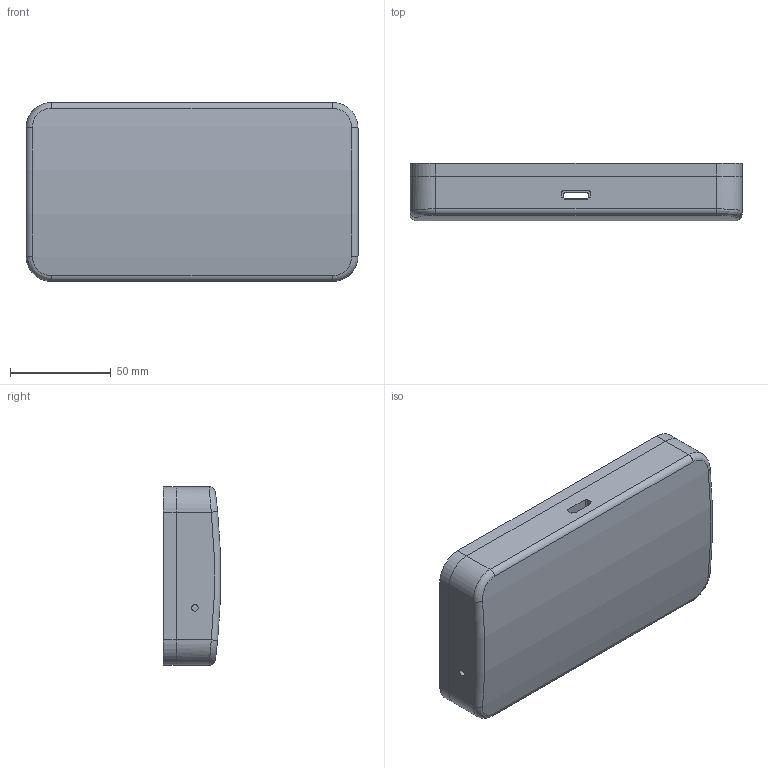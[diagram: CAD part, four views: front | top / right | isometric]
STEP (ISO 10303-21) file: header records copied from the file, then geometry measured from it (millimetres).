
FILE_DESCRIPTION (( 'STEP AP203' ), '1' );
FILE_NAME ('Phone MU Assembly.STEP', '2025-12-16T02:13:05', ( '' ), ( '' ), 'SwSTEP 2.0', 'SolidWorks 2024', '' );
FILE_SCHEMA (( 'CONFIG_CONTROL_DESIGN' ));
Length unit declared in the file: inch
Products named in the file (3): Phone MU Front; Phone MU; Phone MU Assembly
Assembly tree (2 placements, depth 2):
  Phone MU Assembly
    Phone MU
    Phone MU Front
Bounding box: 165.1 x 28.39 x 88.9 mm (x, y, z)
Volume: 174308.2 mm3; surface area: 101985.6 mm2
Topology: 2 solids, 74 shells, 533 faces, 1105 edges, 722 vertices
Faces by surface type: plane 406, cylinder 101, torus 22, bspline 4
Entity records: 14639 total; most frequent: CARTESIAN_POINT 2863, DIRECTION 2400, ORIENTED_EDGE 2210, EDGE_CURVE 1105, LINE 862, VECTOR 862, AXIS2_PLACEMENT_3D 769, VERTEX_POINT 722
